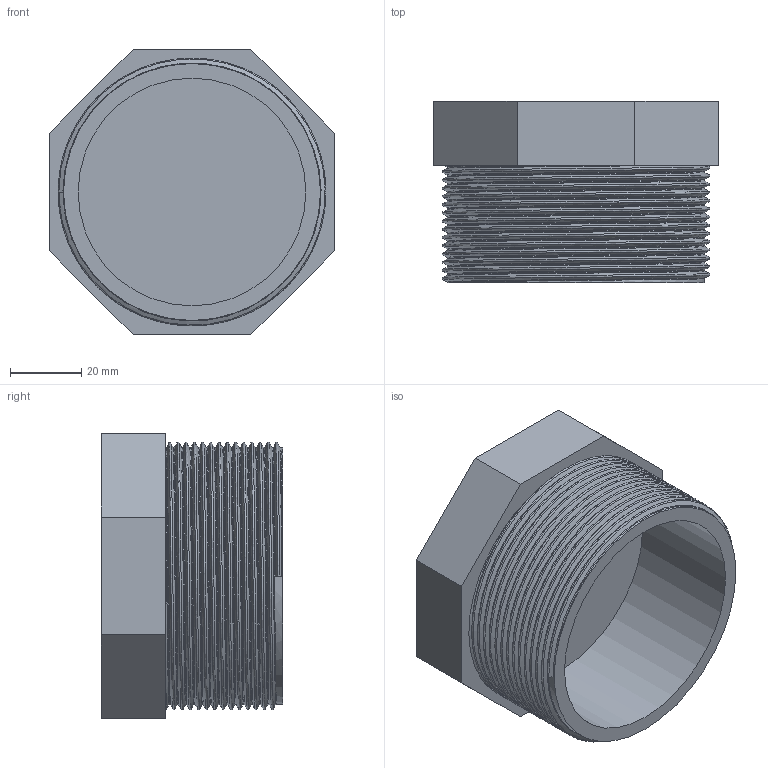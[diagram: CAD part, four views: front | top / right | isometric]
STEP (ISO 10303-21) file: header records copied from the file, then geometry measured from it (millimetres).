
FILE_DESCRIPTION(/* description */ ('PVC tappo filettato BSP maschio'),/* implementation_level */ '2;1');
FILE_NAME(/* name */ 'C:\Users\POLYPIPE\Desktop\DATASET INVENTOR\LIBRERIA EFFAST\RACCORDI 3DxWEB\RER\3D_RERTAE\3D_RERTAE075H.stp',/* time_stamp */ '2018-01-19T17:18:29+01:00',/* author */ ('POLYPIPE'),/* organization */ ('Polypipe Italia s.r.l.'),/* preprocessor_version */ 'ST-DEVELOPER v16.1',/* originating_system */ 'Autodesk Inventor 2016',/* authorisation */ '');
FILE_SCHEMA (('CONFIG_CONTROL_DESIGN'));
Length unit declared in the file: millimetre
Products named in the file (1): 3D_RERTAE
Bounding box: 80 x 51 x 80 mm (x, y, z)
Volume: 129921.8 mm3; surface area: 34725.7 mm2
Topology: 1 solids, 1 shells, 20 faces, 45 edges, 29 vertices
Faces by surface type: plane 13, bspline 5, cylinder 2
Full cylindrical faces by diameter (mm): 64 x1, 72.226 x1
Entity records: 6109 total; most frequent: CARTESIAN_POINT 5670, ORIENTED_EDGE 88, DIRECTION 71, EDGE_CURVE 44, VERTEX_POINT 29, LINE 27, VECTOR 27, EDGE_LOOP 23
